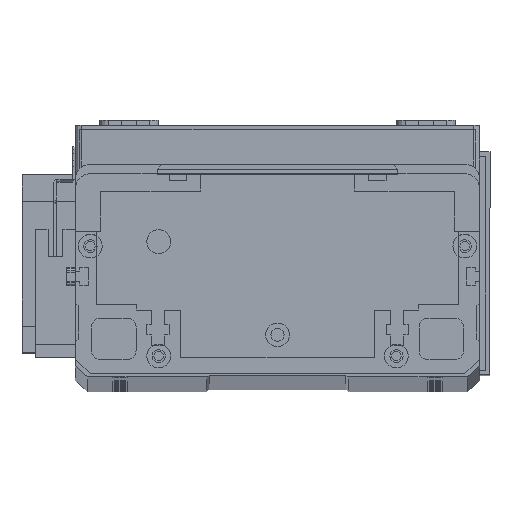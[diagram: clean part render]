
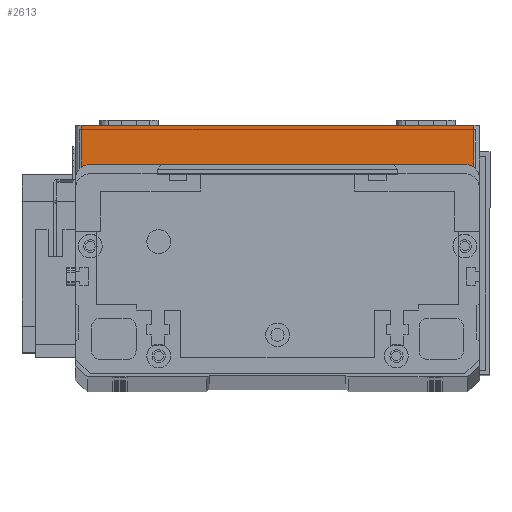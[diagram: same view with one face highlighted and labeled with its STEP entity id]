
A CAD part, top view. The second image highlights one B-rep face of the part: STEP entity #2613.
In plain terms, the highlighted planar face has unit normal (0, 0, 1) as drawn and (0, -1, 0) by its records, which use the part's own axes.
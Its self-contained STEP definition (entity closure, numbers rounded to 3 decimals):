
#197 = VECTOR ( 'NONE', #13659, 1000. ) ;
#1647 = EDGE_CURVE ( 'NONE', #5874, #10672, #16471, .T. ) ;
#2613 = ADVANCED_FACE ( 'NONE', ( #24709 ), #21620, .F. ) ;
#2623 = DIRECTION ( 'NONE',  ( 0., 0., 1. ) ) ;
#2746 = CARTESIAN_POINT ( 'NONE',  ( 0., 0., 19.5 ) ) ;
#5286 = DIRECTION ( 'NONE',  ( 1., 0., 0. ) ) ;
#5686 = VECTOR ( 'NONE', #17039, 1000. ) ;
#5874 = VERTEX_POINT ( 'NONE', #29990 ) ;
#8433 = ORIENTED_EDGE ( 'NONE', *, *, #30754, .T. ) ;
#8917 = EDGE_CURVE ( 'NONE', #19617, #9187, #12891, .T. ) ;
#9187 = VERTEX_POINT ( 'NONE', #9878 ) ;
#9878 = CARTESIAN_POINT ( 'NONE',  ( 134., 0., 19.5 ) ) ;
#10119 = VECTOR ( 'NONE', #20758, 1000. ) ;
#10672 = VERTEX_POINT ( 'NONE', #19823 ) ;
#11310 = LINE ( 'NONE', #2746, #5686 ) ;
#11958 = EDGE_LOOP ( 'NONE', ( #27100, #14008, #8433, #12475 ) ) ;
#12116 = CARTESIAN_POINT ( 'NONE',  ( 0., 0., 19.5 ) ) ;
#12475 = ORIENTED_EDGE ( 'NONE', *, *, #8917, .T. ) ;
#12891 = LINE ( 'NONE', #15961, #197 ) ;
#13659 = DIRECTION ( 'NONE',  ( 0., 0., 1. ) ) ;
#14008 = ORIENTED_EDGE ( 'NONE', *, *, #1647, .T. ) ;
#14768 = VECTOR ( 'NONE', #5286, 1000. ) ;
#15961 = CARTESIAN_POINT ( 'NONE',  ( 134., 0., 19.5 ) ) ;
#16032 = AXIS2_PLACEMENT_3D ( 'NONE', #12116, #16922, #2623 ) ;
#16471 = LINE ( 'NONE', #29441, #10119 ) ;
#16598 = CARTESIAN_POINT ( 'NONE',  ( 134., 0., 0. ) ) ;
#16922 = DIRECTION ( 'NONE',  ( 0., 1., 0. ) ) ;
#17005 = EDGE_CURVE ( 'NONE', #5874, #9187, #11310, .T. ) ;
#17039 = DIRECTION ( 'NONE',  ( 1., 0., 0. ) ) ;
#19617 = VERTEX_POINT ( 'NONE', #16598 ) ;
#19823 = CARTESIAN_POINT ( 'NONE',  ( 2., 0., 0. ) ) ;
#20758 = DIRECTION ( 'NONE',  ( 0., 0., -1. ) ) ;
#21155 = LINE ( 'NONE', #24400, #14768 ) ;
#21620 = PLANE ( 'NONE',  #16032 ) ;
#24400 = CARTESIAN_POINT ( 'NONE',  ( 0., 0., 0. ) ) ;
#24709 = FACE_OUTER_BOUND ( 'NONE', #11958, .T. ) ;
#27100 = ORIENTED_EDGE ( 'NONE', *, *, #17005, .F. ) ;
#29441 = CARTESIAN_POINT ( 'NONE',  ( 2., 0., 19.5 ) ) ;
#29990 = CARTESIAN_POINT ( 'NONE',  ( 2., 0., 19.5 ) ) ;
#30754 = EDGE_CURVE ( 'NONE', #10672, #19617, #21155, .T. ) ;
